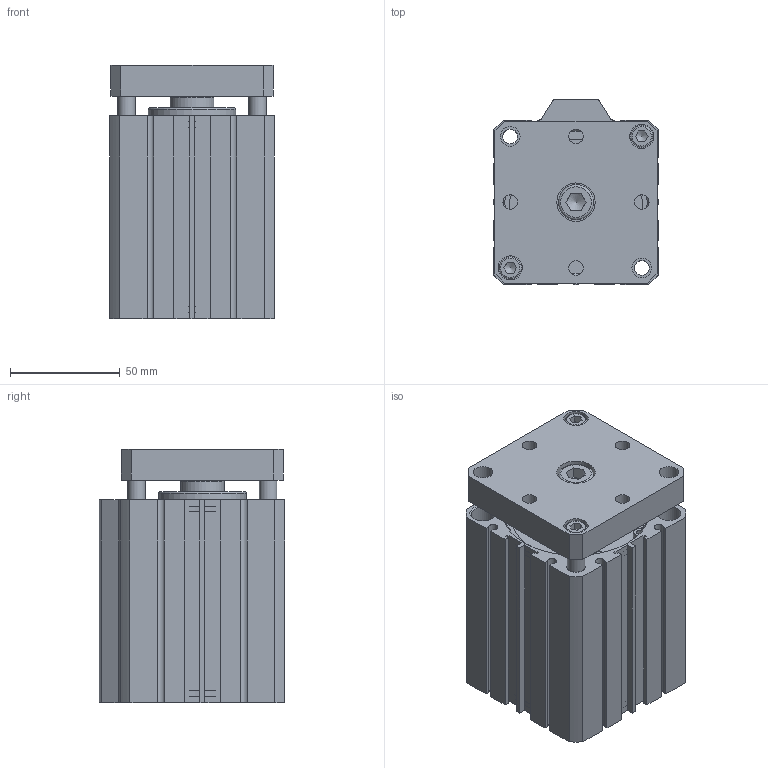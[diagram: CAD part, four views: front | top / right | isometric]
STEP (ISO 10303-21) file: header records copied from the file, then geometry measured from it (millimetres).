
FILE_DESCRIPTION((''),'2;1');
FILE_NAME('I:\3D電子目錄\氣缸\JTD\JTD\JTD63\JTD63x60.stp','2007-08-14T19:51:45',('Administrator'),(''),'Autodesk Inventor 11','Autodesk Inventor 11','');
FILE_SCHEMA(('AUTOMOTIVE_DESIGN { 1 0 10303 214 1 1 1 1 }'));
Length unit declared in the file: millimetre
Products named in the file (5): JTD63; R 形環 65; ISO 4762 M10 x 16; ISO 4762 M6 x 20
Assembly tree (6 placements, depth 2):
  JTD63
    JTD63
    R 形環 65  x2
    ISO 4762 M10 x 16
    ISO 4762 M6 x 20  x2
Bounding box: 75 x 84.5 x 115.5 mm (x, y, z)
Volume: 550618.4 mm3; surface area: 92383.6 mm2
Topology: 7 solids, 7 shells, 232 faces, 563 edges, 372 vertices
Faces by surface type: plane 136, cylinder 61, bspline 16, cone 14, torus 5
Full cylindrical faces by diameter (mm): 2.7 x4, 3 x2, 6 x2, 6.8 x2, 8 x2, 8.5 x2, 9 x2, 10 x3, 11 x4, 16 x1, 20 x1, 40 x1, 47 x1, 65 x4, 68 x2
Entity records: 6069 total; most frequent: CARTESIAN_POINT 1279, DIRECTION 964, ORIENTED_EDGE 866, EDGE_CURVE 433, AXIS2_PLACEMENT_3D 342, VERTEX_POINT 321, EDGE_LOOP 316, VECTOR 280
